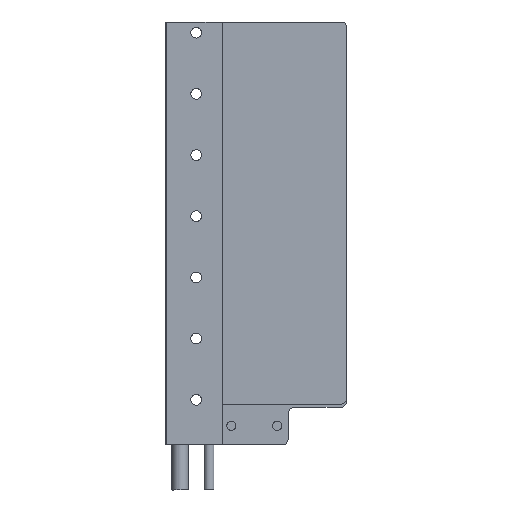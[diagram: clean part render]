
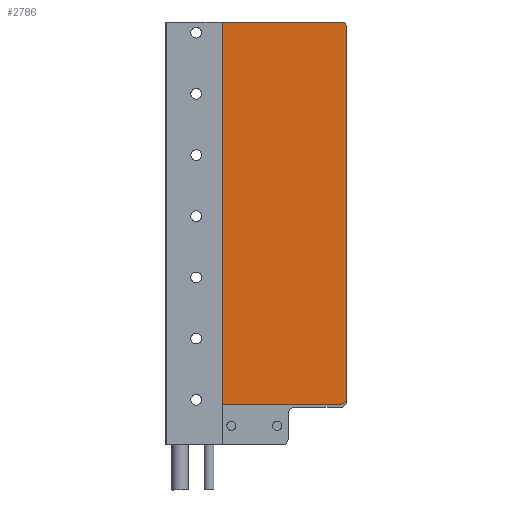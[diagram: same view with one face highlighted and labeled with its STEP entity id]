
A CAD part, front view. The second image highlights one B-rep face of the part: STEP entity #2786.
In plain terms, the highlighted planar face has unit normal (0, -1, 0).
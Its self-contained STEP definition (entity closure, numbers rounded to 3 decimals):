
#11 = CARTESIAN_POINT ( 'NONE',  ( 86.877, 74.407, 192.129 ) ) ;
#31 = ORIENTED_EDGE ( 'NONE', *, *, #3773, .T. ) ;
#203 = PLANE ( 'NONE',  #2461 ) ;
#283 = AXIS2_PLACEMENT_3D ( 'NONE', #1749, #696, #3491 ) ;
#467 = CARTESIAN_POINT ( 'NONE',  ( 46.277, 74.407, 54.783 ) ) ;
#532 = VERTEX_POINT ( 'NONE', #467 ) ;
#597 = CARTESIAN_POINT ( 'NONE',  ( 86.877, 74.407, 54.783 ) ) ;
#647 = ORIENTED_EDGE ( 'NONE', *, *, #3494, .T. ) ;
#696 = DIRECTION ( 'NONE',  ( 0., -1., 0. ) ) ;
#764 = EDGE_CURVE ( 'NONE', #2534, #2778, #2243, .T. ) ;
#797 = VERTEX_POINT ( 'NONE', #2855 ) ;
#831 = ORIENTED_EDGE ( 'NONE', *, *, #1919, .F. ) ;
#907 = ORIENTED_EDGE ( 'NONE', *, *, #764, .T. ) ;
#967 = LINE ( 'NONE', #597, #2854 ) ;
#1085 = CIRCLE ( 'NONE', #1514, 2. ) ;
#1090 = CARTESIAN_POINT ( 'NONE',  ( 84.877, 74.407, 56.783 ) ) ;
#1115 = EDGE_CURVE ( 'NONE', #797, #532, #967, .T. ) ;
#1213 = EDGE_CURVE ( 'NONE', #2534, #3914, #2432, .T. ) ;
#1332 = CARTESIAN_POINT ( 'NONE',  ( 46.277, 74.407, 179.783 ) ) ;
#1383 = VECTOR ( 'NONE', #3823, 1000. ) ;
#1514 = AXIS2_PLACEMENT_3D ( 'NONE', #1090, #2545, #3548 ) ;
#1741 = LINE ( 'NONE', #3115, #2975 ) ;
#1749 = CARTESIAN_POINT ( 'NONE',  ( 84.877, 74.407, 178.083 ) ) ;
#1853 = LINE ( 'NONE', #2915, #3039 ) ;
#1886 = CARTESIAN_POINT ( 'NONE',  ( 85.93, 74.407, 179.783 ) ) ;
#1919 = EDGE_CURVE ( 'NONE', #3259, #2778, #1853, .T. ) ;
#2231 = DIRECTION ( 'NONE',  ( -1., 0., 0. ) ) ;
#2243 = CIRCLE ( 'NONE', #283, 2. ) ;
#2379 = DIRECTION ( 'NONE',  ( 0., 0., -1. ) ) ;
#2432 = LINE ( 'NONE', #11, #1383 ) ;
#2461 = AXIS2_PLACEMENT_3D ( 'NONE', #2924, #3950, #2231 ) ;
#2534 = VERTEX_POINT ( 'NONE', #3114 ) ;
#2545 = DIRECTION ( 'NONE',  ( 0., -1., 0. ) ) ;
#2568 = DIRECTION ( 'NONE',  ( 1., 0., 0. ) ) ;
#2576 = FACE_OUTER_BOUND ( 'NONE', #3683, .T. ) ;
#2778 = VERTEX_POINT ( 'NONE', #1886 ) ;
#2786 = ADVANCED_FACE ( 'NONE', ( #2576 ), #203, .F. ) ;
#2854 = VECTOR ( 'NONE', #3751, 1000. ) ;
#2855 = CARTESIAN_POINT ( 'NONE',  ( 84.877, 74.407, 54.783 ) ) ;
#2915 = CARTESIAN_POINT ( 'NONE',  ( 29.777, 74.407, 179.783 ) ) ;
#2924 = CARTESIAN_POINT ( 'NONE',  ( 46.277, 74.407, 192.129 ) ) ;
#2975 = VECTOR ( 'NONE', #2379, 1000. ) ;
#3008 = ORIENTED_EDGE ( 'NONE', *, *, #1213, .F. ) ;
#3039 = VECTOR ( 'NONE', #2568, 1000. ) ;
#3114 = CARTESIAN_POINT ( 'NONE',  ( 86.877, 74.407, 178.083 ) ) ;
#3115 = CARTESIAN_POINT ( 'NONE',  ( 46.277, 74.407, 192.129 ) ) ;
#3231 = ORIENTED_EDGE ( 'NONE', *, *, #1115, .F. ) ;
#3259 = VERTEX_POINT ( 'NONE', #1332 ) ;
#3491 = DIRECTION ( 'NONE',  ( -1., 0., 0. ) ) ;
#3494 = EDGE_CURVE ( 'NONE', #797, #3914, #1085, .T. ) ;
#3548 = DIRECTION ( 'NONE',  ( -1., 0., 0. ) ) ;
#3683 = EDGE_LOOP ( 'NONE', ( #3008, #907, #831, #31, #3231, #647 ) ) ;
#3751 = DIRECTION ( 'NONE',  ( -1., 0., 0. ) ) ;
#3773 = EDGE_CURVE ( 'NONE', #3259, #532, #1741, .T. ) ;
#3823 = DIRECTION ( 'NONE',  ( 0., 0., -1. ) ) ;
#3914 = VERTEX_POINT ( 'NONE', #4237 ) ;
#3950 = DIRECTION ( 'NONE',  ( 0., 1., 0. ) ) ;
#4237 = CARTESIAN_POINT ( 'NONE',  ( 86.877, 74.407, 56.783 ) ) ;
